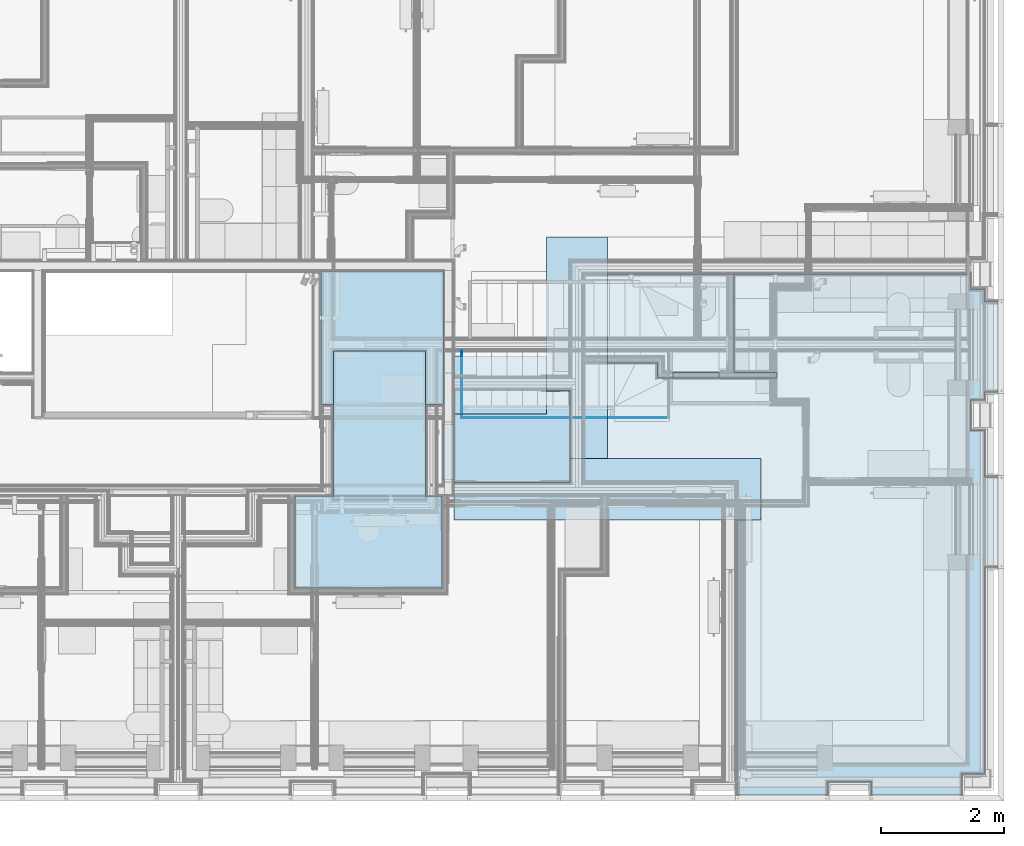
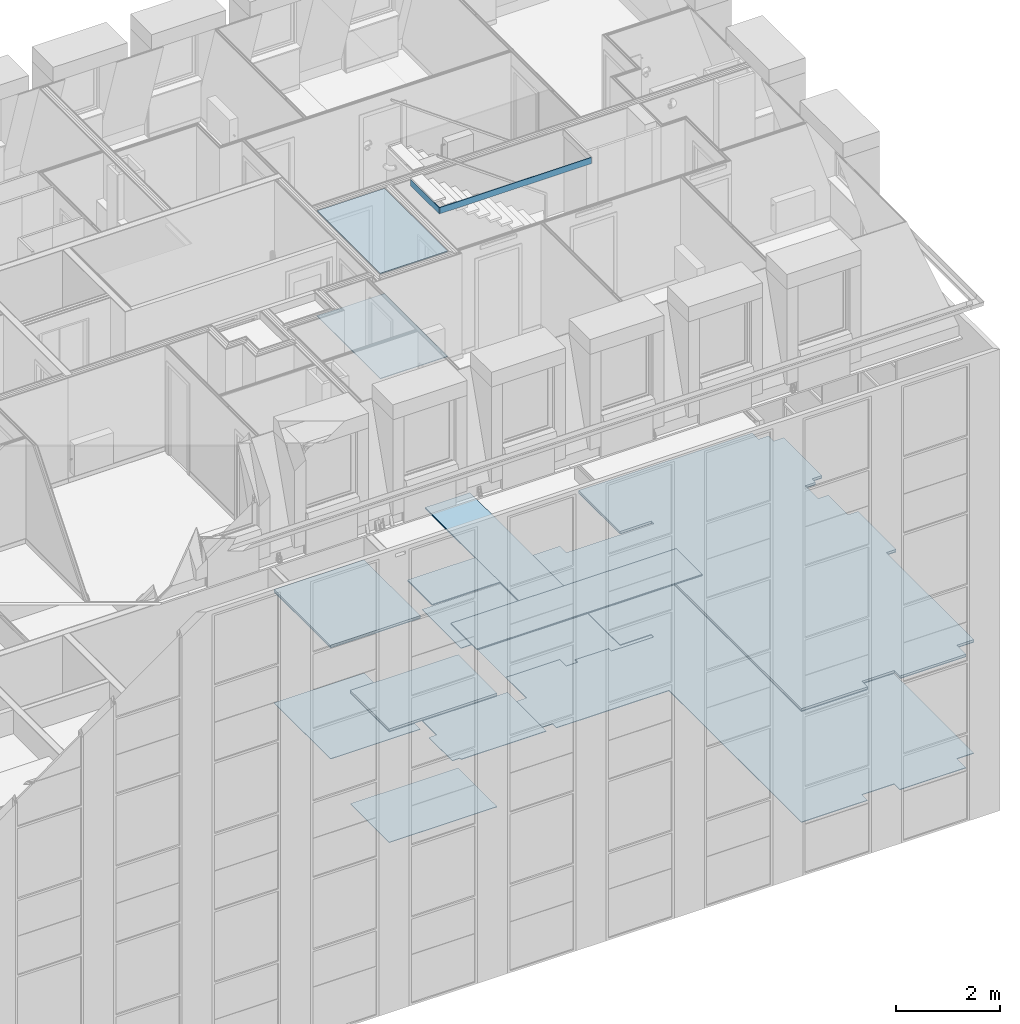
# One storey, part 77 of 169: 25 slabs.
"""IFC2X3 building model written with IfcOpenShell, lengths in metres."""

from ifc_helpers import new_model, entity, si_unit, converted_unit, derived_unit, money_unit, direction, frame, origin_with_axes, place, context, subcontext, project, spatial, faceted_brep, material, type_object, element, save


model = new_model("IFC2X3")

# Units and contexts
model_context = context("Model", 3, precision=1e-05, world=origin_with_axes(), true_north=direction((0.0, 1.0)))
body_context = subcontext(model_context, "Body", "Model", "MODEL_VIEW", scale=1.0)
ifc_project = project(units=[si_unit("LENGTHUNIT", "METRE"), si_unit("AREAUNIT", "SQUARE_METRE"), si_unit("VOLUMEUNIT", "CUBIC_METRE"), si_unit("ABSORBEDDOSEUNIT", "GRAY"), si_unit("AMOUNTOFSUBSTANCEUNIT", "MOLE"), si_unit("DOSEEQUIVALENTUNIT", "SIEVERT"), si_unit("ELECTRICCAPACITANCEUNIT", "FARAD"), si_unit("ELECTRICCHARGEUNIT", "COULOMB"), si_unit("ELECTRICCONDUCTANCEUNIT", "SIEMENS"), si_unit("ELECTRICCURRENTUNIT", "AMPERE"), si_unit("ELECTRICRESISTANCEUNIT", "OHM"), si_unit("ELECTRICVOLTAGEUNIT", "VOLT"), si_unit("ENERGYUNIT", "JOULE"), si_unit("FORCEUNIT", "NEWTON"), si_unit("FREQUENCYUNIT", "HERTZ"), si_unit("ILLUMINANCEUNIT", "LUX"), si_unit("INDUCTANCEUNIT", "HENRY"), si_unit("LUMINOUSFLUXUNIT", "LUMEN"), si_unit("LUMINOUSINTENSITYUNIT", "CANDELA"), si_unit("MAGNETICFLUXDENSITYUNIT", "TESLA"), si_unit("MAGNETICFLUXUNIT", "WEBER"), si_unit("MASSUNIT", "GRAM"), converted_unit("PLANEANGLEUNIT", "degree", entity("IfcReal", 0.0174532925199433), si_unit("PLANEANGLEUNIT", "RADIAN"), dimensions=[0, 0, 0, 0, 0, 0, 0]), si_unit("POWERUNIT", "WATT"), si_unit("PRESSUREUNIT", "PASCAL"), si_unit("RADIOACTIVITYUNIT", "BECQUEREL"), si_unit("SOLIDANGLEUNIT", "STERADIAN"), si_unit("THERMODYNAMICTEMPERATUREUNIT", "KELVIN"), si_unit("TIMEUNIT", "SECOND"), derived_unit("ACCELERATIONUNIT", [(si_unit("LENGTHUNIT", "METRE"), 1), (si_unit("TIMEUNIT", "SECOND"), -2)]), derived_unit("ANGULARVELOCITYUNIT", [(converted_unit("PLANEANGLEUNIT", "degree", entity("IfcReal", 0.0174532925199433), si_unit("PLANEANGLEUNIT", "RADIAN"), dimensions=[0, 0, 0, 0, 0, 0, 0]), 1), (si_unit("TIMEUNIT", "SECOND"), -1)]), derived_unit("CURVATUREUNIT", [(converted_unit("PLANEANGLEUNIT", "degree", entity("IfcReal", 0.0174532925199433), si_unit("PLANEANGLEUNIT", "RADIAN"), dimensions=[0, 0, 0, 0, 0, 0, 0]), 1), (si_unit("LENGTHUNIT", "METRE"), -1)]), derived_unit("DYNAMICVISCOSITYUNIT", [(si_unit("PRESSUREUNIT", "PASCAL"), 1), (si_unit("TIMEUNIT", "SECOND"), 1)]), derived_unit("HEATFLUXDENSITYUNIT", [(si_unit("POWERUNIT", "WATT"), 1), (si_unit("LENGTHUNIT", "METRE"), -2)]), derived_unit("HEATINGVALUEUNIT", [(si_unit("ENERGYUNIT", "JOULE"), 1), (si_unit("MASSUNIT", "GRAM"), -1)]), derived_unit("INTEGERCOUNTRATEUNIT", [(si_unit("TIMEUNIT", "SECOND"), -1)]), derived_unit("IONCONCENTRATIONUNIT", [(si_unit("MASSUNIT", "GRAM"), 1), (si_unit("VOLUMEUNIT", "CUBIC_METRE"), -1)]), derived_unit("ISOTHERMALMOISTURECAPACITYUNIT", [(si_unit("VOLUMEUNIT", "CUBIC_METRE"), 1), (si_unit("MASSUNIT", "GRAM"), -1)]), derived_unit("KINEMATICVISCOSITYUNIT", [(si_unit("AREAUNIT", "SQUARE_METRE"), 1), (si_unit("TIMEUNIT", "SECOND"), -1)]), derived_unit("LINEARFORCEUNIT", [(si_unit("FORCEUNIT", "NEWTON"), 1), (si_unit("LENGTHUNIT", "METRE"), -1)]), derived_unit("LINEARMOMENTUNIT", [(si_unit("FORCEUNIT", "NEWTON"), 1), (si_unit("LENGTHUNIT", "METRE"), -1)]), derived_unit("LINEARSTIFFNESSUNIT", [(si_unit("FORCEUNIT", "NEWTON"), 1), (si_unit("LENGTHUNIT", "METRE"), -1)]), derived_unit("LINEARVELOCITYUNIT", [(si_unit("LENGTHUNIT", "METRE"), 1), (si_unit("TIMEUNIT", "SECOND"), -1)]), derived_unit("LUMINOUSINTENSITYDISTRIBUTIONUNIT", [(si_unit("LUMINOUSINTENSITYUNIT", "CANDELA"), 1), (si_unit("LUMINOUSFLUXUNIT", "LUMEN"), -1)]), derived_unit("MASSDENSITYUNIT", [(si_unit("MASSUNIT", "GRAM"), 1), (si_unit("VOLUMEUNIT", "CUBIC_METRE"), -1)]), derived_unit("MASSFLOWRATEUNIT", [(si_unit("MASSUNIT", "GRAM"), 1), (si_unit("TIMEUNIT", "SECOND"), -1)]), derived_unit("MASSPERLENGTHUNIT", [(si_unit("MASSUNIT", "GRAM"), 1), (si_unit("LENGTHUNIT", "METRE"), -1)]), derived_unit("MODULUSOFELASTICITYUNIT", [(si_unit("FORCEUNIT", "NEWTON"), 1), (si_unit("AREAUNIT", "SQUARE_METRE"), -1)]), derived_unit("MODULUSOFLINEARSUBGRADEREACTIONUNIT", [(si_unit("FORCEUNIT", "NEWTON"), 1), (si_unit("LENGTHUNIT", "METRE"), -2)]), derived_unit("MODULUSOFROTATIONALSUBGRADEREACTIONUNIT", [(si_unit("FORCEUNIT", "NEWTON"), 1), (si_unit("LENGTHUNIT", "METRE"), 1)]), derived_unit("MODULUSOFSUBGRADEREACTIONUNIT", [(si_unit("FORCEUNIT", "NEWTON"), 1), (si_unit("VOLUMEUNIT", "CUBIC_METRE"), -1)]), derived_unit("MOISTUREDIFFUSIVITYUNIT", [(si_unit("VOLUMEUNIT", "CUBIC_METRE"), 1), (si_unit("TIMEUNIT", "SECOND"), -1)]), derived_unit("MOLECULARWEIGHTUNIT", [(si_unit("MASSUNIT", "GRAM"), 1), (si_unit("AMOUNTOFSUBSTANCEUNIT", "MOLE"), -1)]), derived_unit("PLANARFORCEUNIT", [(si_unit("FORCEUNIT", "NEWTON"), 1), (si_unit("LENGTHUNIT", "METRE"), -2)]), derived_unit("ROTATIONALFREQUENCYUNIT", [(si_unit("TIMEUNIT", "SECOND"), -1)]), derived_unit("ROTATIONALMASSUNIT", [(si_unit("MASSUNIT", "GRAM"), 1), (si_unit("LENGTHUNIT", "METRE"), 2)]), derived_unit("ROTATIONALSTIFFNESSUNIT", [(si_unit("FORCEUNIT", "NEWTON"), 1), (si_unit("LENGTHUNIT", "METRE"), 1), (converted_unit("PLANEANGLEUNIT", "degree", entity("IfcReal", 0.0174532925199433), si_unit("PLANEANGLEUNIT", "RADIAN"), dimensions=[0, 0, 0, 0, 0, 0, 0]), -1)]), derived_unit("SECTIONAREAINTEGRALUNIT", [(si_unit("LENGTHUNIT", "METRE"), 5)]), derived_unit("SECTIONMODULUSUNIT", [(si_unit("LENGTHUNIT", "METRE"), 3)]), derived_unit("SHEARMODULUSUNIT", [(si_unit("FORCEUNIT", "NEWTON"), 1), (si_unit("AREAUNIT", "SQUARE_METRE"), -1)]), derived_unit("SOUNDPOWERUNIT", [(si_unit("ENERGYUNIT", "JOULE"), 1), (si_unit("TIMEUNIT", "SECOND"), -1)]), derived_unit("SPECIFICHEATCAPACITYUNIT", [(si_unit("FORCEUNIT", "NEWTON"), 1), (si_unit("MASSUNIT", "GRAM"), -1), (si_unit("THERMODYNAMICTEMPERATUREUNIT", "KELVIN"), -1)]), derived_unit("TEMPERATUREGRADIENTUNIT", [(si_unit("THERMODYNAMICTEMPERATUREUNIT", "KELVIN"), 1), (si_unit("LENGTHUNIT", "METRE"), -1)]), derived_unit("THERMALADMITTANCEUNIT", [(si_unit("POWERUNIT", "WATT"), 1), (si_unit("AREAUNIT", "SQUARE_METRE"), -1), (si_unit("THERMODYNAMICTEMPERATUREUNIT", "KELVIN"), -1)]), derived_unit("THERMALCONDUCTANCEUNIT", [(si_unit("POWERUNIT", "WATT"), 1), (si_unit("LENGTHUNIT", "METRE"), -1), (si_unit("THERMODYNAMICTEMPERATUREUNIT", "KELVIN"), -1)]), derived_unit("THERMALEXPANSIONCOEFFICIENTUNIT", [(si_unit("THERMODYNAMICTEMPERATUREUNIT", "KELVIN"), -1)]), derived_unit("THERMALRESISTANCEUNIT", [(si_unit("AREAUNIT", "SQUARE_METRE"), 1), (si_unit("POWERUNIT", "WATT"), -1)]), derived_unit("THERMALTRANSMITTANCEUNIT", [(si_unit("POWERUNIT", "WATT"), 1), (si_unit("AREAUNIT", "SQUARE_METRE"), -1), (si_unit("THERMODYNAMICTEMPERATUREUNIT", "KELVIN"), -1)]), derived_unit("TORQUEUNIT", [(si_unit("FORCEUNIT", "NEWTON"), 1), (si_unit("LENGTHUNIT", "METRE"), 1)]), derived_unit("VAPORPERMEABILITYUNIT", [(si_unit("MASSUNIT", "GRAM"), 1), (si_unit("TIMEUNIT", "SECOND"), -1)]), derived_unit("VOLUMETRICFLOWRATEUNIT", [(si_unit("VOLUMEUNIT", "CUBIC_METRE"), 1), (si_unit("TIMEUNIT", "SECOND"), -1)]), derived_unit("WARPINGCONSTANTUNIT", [(si_unit("LENGTHUNIT", "METRE"), 6)]), derived_unit("WARPINGMOMENTUNIT", [(si_unit("FORCEUNIT", "NEWTON"), 1), (si_unit("LENGTHUNIT", "METRE"), 2)]), money_unit("GBP")], contexts=[model_context])

# Site, building, storey
site_placement = place(None, origin_with_axes())
site = spatial("IfcSite", under=ifc_project, at=site_placement, Name="Site", CompositionType="ELEMENT")
building_placement = place(site_placement, origin_with_axes())
building = spatial("IfcBuilding", under=site, at=building_placement, Name="Building01", CompositionType="ELEMENT")
storey_placement = place(building_placement, frame((0.0, 0.0, 5.15), z_axis=(0.0, 0.0, 1.0), x_axis=(1.0, 0.0, 0.0)))
storey = spatial("IfcBuildingStorey", under=building, at=storey_placement, Name="1F", CompositionType="ELEMENT", Elevation=5.15)

# Slabs
ifc_material_1 = material(Name="A_BSUK_CeilingSoffitFinishes_Suspended")
slab_type_1 = type_object("IfcSlabType", Name="A-FloorsSlabs A_BSUK_Slabs", PredefinedType="FLOOR")
placement = place(storey_placement, frame((0.0, 0.0, -5.15), z_axis=(0.0, 0.0, 1.0), x_axis=(1.0, 0.0, 0.0)))
element("IfcSlab", 1, at=placement, inside=storey, type_object=slab_type_1, material=ifc_material_1, Name="A-FloorsSlabs A_BSUK_Slabs", ObjectType="CompoundSlabLeaf", context=body_context, shape_type="Brep", body=[
    faceted_brep([(18.0, 6.705, 7.765), (18.0, 6.705, 7.78), (19.897661, 6.705, 7.78), (19.897661, 6.705, 7.765), (18.0, 5.205, 7.765), (18.0, 5.205, 7.78), (19.897661, 5.205, 7.765), (19.897661, 5.205, 7.78)], [[[0, 1, 2, 3]], [[4, 5, 1, 0]], [[6, 7, 5, 4]], [[3, 2, 7, 6]], [[1, 5, 7, 2]], [[3, 6, 4, 0]]]),
])
ifc_material_2 = material(Name="A_BSUK_ExpandedPolystyreneBoards")
element("IfcSlab", 2, at=placement, inside=storey, type_object=slab_type_1, material=ifc_material_2, Name="A-FloorsSlabs A_BSUK_Slabs", ObjectType="CompoundSlabLeaf", context=body_context, shape_type="Brep", body=[
    faceted_brep([(18.0, 6.69, 5.15), (18.0, 6.69, 5.153), (19.897661, 6.69, 5.153), (19.897661, 6.69, 5.15), (18.0, 5.205, 5.15), (18.0, 5.205, 5.153), (19.897661, 5.205, 5.15), (19.897661, 5.205, 5.153)], [[[0, 1, 2, 3]], [[4, 5, 1, 0]], [[6, 7, 5, 4]], [[3, 2, 7, 6]], [[1, 5, 7, 2]], [[3, 6, 4, 0]]]),
])
element("IfcSlab", 3, at=placement, inside=storey, type_object=slab_type_1, material=ifc_material_2, Name="A-FloorsSlabs A_BSUK_Slabs", ObjectType="CompoundSlabLeaf", context=body_context, shape_type="Brep", body=[
    faceted_brep([(20.122661, 6.357147, 5.15), (20.122661, 6.357147, 5.153), (20.122661, 8.595, 5.153), (20.122661, 8.595, 5.15), (19.897661, 6.357147, 5.15), (19.897661, 6.357147, 5.153), (19.897661, 5.357147, 5.15), (19.897661, 5.357147, 5.153), (20.122661, 5.357147, 5.15), (20.122661, 5.357147, 5.153), (20.122661, 5.205, 5.15), (20.122661, 5.205, 5.153), (22.625, 5.205, 5.15), (22.625, 5.205, 5.153), (22.625, 0.1, 5.15), (22.625, 0.1, 5.153), (24.095, 0.1, 5.15), (24.095, 0.1, 5.153), (24.095, 0.318, 5.15), (24.095, 0.318, 5.153), (24.815, 0.318, 5.15), (24.815, 0.318, 5.153), (24.815, 0.1, 5.15), (24.815, 0.1, 5.153), (26.285, 0.1, 5.15), (26.285, 0.1, 5.153), (26.285, 0.448, 5.15), (26.285, 0.448, 5.153), (26.662, 0.448, 5.15), (26.662, 0.448, 5.153), (26.662, 3.82218, 5.15), (26.662, 3.82218, 5.153), (26.88, 3.82218, 5.15), (26.88, 3.82218, 5.153), (26.88, 5.29218, 5.15), (26.88, 5.29218, 5.153), (26.662, 5.29218, 5.15), (26.662, 5.29218, 5.153), (26.662, 6.052, 5.15), (26.662, 6.052, 5.153), (26.432, 6.052, 5.15), (26.432, 6.052, 5.153), (26.432, 6.548, 5.15), (26.432, 6.548, 5.153), (26.662, 6.548, 5.15), (26.662, 6.548, 5.153), (26.662, 6.682326, 5.15), (26.662, 6.682326, 5.153), (26.88, 6.682326, 5.15), (26.88, 6.682326, 5.153), (26.88, 8.152326, 5.15), (26.88, 8.152326, 5.153), (26.662, 8.152326, 5.15), (26.662, 8.152326, 5.153), (26.662, 8.352, 5.15), (26.662, 8.352, 5.153), (26.432, 8.352, 5.15), (26.432, 8.352, 5.153), (26.432, 8.595, 5.15), (26.432, 8.595, 5.153)], [[[0, 1, 2, 3]], [[4, 5, 1, 0]], [[6, 7, 5, 4]], [[8, 9, 7, 6]], [[10, 11, 9, 8]], [[12, 13, 11, 10]], [[14, 15, 13, 12]], [[16, 17, 15, 14]], [[18, 19, 17, 16]], [[20, 21, 19, 18]], [[22, 23, 21, 20]], [[24, 25, 23, 22]], [[26, 27, 25, 24]], [[28, 29, 27, 26]], [[30, 31, 29, 28]], [[32, 33, 31, 30]], [[34, 35, 33, 32]], [[36, 37, 35, 34]], [[38, 39, 37, 36]], [[40, 41, 39, 38]], [[42, 43, 41, 40]], [[44, 45, 43, 42]], [[46, 47, 45, 44]], [[48, 49, 47, 46]], [[50, 51, 49, 48]], [[52, 53, 51, 50]], [[54, 55, 53, 52]], [[56, 57, 55, 54]], [[58, 59, 57, 56]], [[3, 2, 59, 58]], [[1, 5, 7, 9, 11, 13, 15, 17, 19, 21, 23, 25, 27, 29, 31, 33, 35, 37, 39, 41, 43, 45, 47, 49, 51, 53, 55, 57, 59, 2]], [[3, 58, 56, 54, 52, 50, 48, 46, 44, 42, 40, 38, 36, 34, 32, 30, 28, 26, 24, 22, 20, 18, 16, 14, 12, 10, 8, 6, 4, 0]]]),
])
ifc_material_3 = material(Name="A_BSUK_Ceramic_FloorTiles")
element("IfcSlab", 4, at=placement, inside=storey, type_object=slab_type_1, material=ifc_material_3, Name="A-FloorsSlabs A_BSUK_Slabs", ObjectType="CompoundSlabLeaf", context=body_context, shape_type="Brep", body=[
    faceted_brep([(15.83, 6.475, 5.153), (15.83, 6.475, 5.165), (15.83, 8.65, 5.165), (15.83, 8.65, 5.153), (17.83, 6.475, 5.153), (17.83, 6.475, 5.165), (17.83, 8.65, 5.153), (17.83, 8.65, 5.165)], [[[0, 1, 2, 3]], [[4, 5, 1, 0]], [[6, 7, 5, 4]], [[3, 2, 7, 6]], [[1, 5, 7, 2]], [[3, 6, 4, 0]]]),
])
ifc_material_4 = material(Name="A_BSUK_Parquet_Floor")
element("IfcSlab", 5, at=placement, inside=storey, type_object=slab_type_1, material=ifc_material_4, Name="A-FloorsSlabs A_BSUK_Slabs", ObjectType="CompoundSlabLeaf", context=body_context, shape_type="Brep", body=[
    faceted_brep([(19.897661, 5.357147, 5.153), (19.897661, 5.357147, 5.165), (19.897661, 6.357147, 5.165), (19.897661, 6.357147, 5.153), (20.122661, 5.357147, 5.153), (20.122661, 5.357147, 5.165), (20.122661, 5.205, 5.153), (20.122661, 5.205, 5.165), (22.625, 5.205, 5.153), (22.625, 5.205, 5.165), (22.625, 0.1, 5.153), (22.625, 0.1, 5.165), (24.095, 0.1, 5.153), (24.095, 0.1, 5.165), (24.095, 0.318, 5.153), (24.095, 0.318, 5.165), (24.815, 0.318, 5.153), (24.815, 0.318, 5.165), (24.815, 0.1, 5.153), (24.815, 0.1, 5.165), (26.285, 0.1, 5.153), (26.285, 0.1, 5.165), (26.285, 0.448, 5.153), (26.285, 0.448, 5.165), (26.662, 0.448, 5.153), (26.662, 0.448, 5.165), (26.662, 3.82218, 5.153), (26.662, 3.82218, 5.165), (26.662, 5.29218, 5.153), (26.662, 5.29218, 5.165), (26.662, 6.052, 5.153), (26.662, 6.052, 5.165), (26.432, 6.052, 5.153), (26.432, 6.052, 5.165), (26.432, 6.548, 5.153), (26.432, 6.548, 5.165), (26.662, 6.548, 5.153), (26.662, 6.548, 5.165), (26.662, 6.682326, 5.153), (26.662, 6.682326, 5.165), (26.662, 8.152326, 5.153), (26.662, 8.152326, 5.165), (26.662, 8.352, 5.153), (26.662, 8.352, 5.165), (26.432, 8.352, 5.153), (26.432, 8.352, 5.165), (26.432, 8.595, 5.153), (26.432, 8.595, 5.165), (22.571661, 8.595, 5.153), (22.571661, 8.595, 5.165), (22.571661, 7.0, 5.153), (22.571661, 7.0, 5.165), (23.271529, 7.0, 5.153), (23.271529, 7.0, 5.165), (23.271529, 6.905, 5.153), (23.271529, 6.905, 5.165), (22.326661, 6.905, 5.153), (22.326661, 6.905, 5.165), (22.326661, 7.0, 5.153), (22.326661, 7.0, 5.165), (21.576661, 7.0, 5.153), (21.576661, 7.0, 5.165), (21.576661, 6.905, 5.153), (21.576661, 6.905, 5.165), (21.322661, 6.905, 5.153), (21.322661, 6.905, 5.165), (21.322661, 7.155, 5.153), (21.322661, 7.155, 5.165), (20.122661, 7.155, 5.153), (20.122661, 7.155, 5.165), (20.122661, 6.905, 5.153), (20.122661, 6.905, 5.165), (20.122661, 6.357147, 5.153), (20.122661, 6.357147, 5.165)], [[[0, 1, 2, 3]], [[4, 5, 1, 0]], [[6, 7, 5, 4]], [[8, 9, 7, 6]], [[10, 11, 9, 8]], [[12, 13, 11, 10]], [[14, 15, 13, 12]], [[16, 17, 15, 14]], [[18, 19, 17, 16]], [[20, 21, 19, 18]], [[22, 23, 21, 20]], [[24, 25, 23, 22]], [[26, 27, 25, 24]], [[28, 29, 27, 26]], [[30, 31, 29, 28]], [[32, 33, 31, 30]], [[34, 35, 33, 32]], [[36, 37, 35, 34]], [[38, 39, 37, 36]], [[40, 41, 39, 38]], [[42, 43, 41, 40]], [[44, 45, 43, 42]], [[46, 47, 45, 44]], [[48, 49, 47, 46]], [[50, 51, 49, 48]], [[52, 53, 51, 50]], [[54, 55, 53, 52]], [[56, 57, 55, 54]], [[58, 59, 57, 56]], [[60, 61, 59, 58]], [[62, 63, 61, 60]], [[64, 65, 63, 62]], [[66, 67, 65, 64]], [[68, 69, 67, 66]], [[70, 71, 69, 68]], [[72, 73, 71, 70]], [[3, 2, 73, 72]], [[1, 5, 7, 9, 11, 13, 15, 17, 19, 21, 23, 25, 27, 29, 31, 33, 35, 37, 39, 41, 43, 45, 47, 49, 51, 53, 55, 57, 59, 61, 63, 65, 67, 69, 71, 73, 2]], [[3, 72, 70, 68, 66, 64, 62, 60, 58, 56, 54, 52, 50, 48, 46, 44, 42, 40, 38, 36, 34, 32, 30, 28, 26, 24, 22, 20, 18, 16, 14, 12, 10, 8, 6, 4, 0]]]),
])
element("IfcSlab", 6, at=placement, inside=storey, type_object=slab_type_1, material=ifc_material_3, Name="A-FloorsSlabs A_BSUK_Slabs", ObjectType="CompoundSlabLeaf", context=body_context, shape_type="Brep", body=[
    faceted_brep([(15.4075, 4.98, 5.153), (15.4075, 4.98, 5.165), (17.8075, 4.98, 5.165), (17.8075, 4.98, 5.153), (15.4075, 4.259428, 5.153), (15.4075, 4.259428, 5.165), (15.4075, 3.48, 5.153), (15.4075, 3.48, 5.165), (17.8075, 3.48, 5.153), (17.8075, 3.48, 5.165)], [[[0, 1, 2, 3]], [[4, 5, 1, 0]], [[6, 7, 5, 4]], [[8, 9, 7, 6]], [[3, 2, 9, 8]], [[1, 5, 7, 9, 2]], [[3, 8, 6, 4, 0]]]),
])
ifc_material_5 = material(Name="A_BSUK_Carpet-Pile")
element("IfcSlab", 7, at=placement, inside=storey, type_object=slab_type_1, material=ifc_material_5, Name="A-FloorsSlabs A_BSUK_Slabs", ObjectType="CompoundSlabLeaf", context=body_context, shape_type="Brep", body=[
    faceted_brep([(18.0, 6.705, 5.153), (18.0, 6.705, 5.165), (19.897661, 6.705, 5.165), (19.897661, 6.705, 5.153), (18.0, 6.15, 5.153), (18.0, 6.15, 5.165), (17.83, 6.15, 5.153), (17.83, 6.15, 5.165), (17.83, 5.25, 5.153), (17.83, 5.25, 5.165), (18.0, 5.25, 5.153), (18.0, 5.25, 5.165), (18.0, 5.205, 5.153), (18.0, 5.205, 5.165), (19.897661, 5.205, 5.153), (19.897661, 5.205, 5.165)], [[[0, 1, 2, 3]], [[4, 5, 1, 0]], [[6, 7, 5, 4]], [[8, 9, 7, 6]], [[10, 11, 9, 8]], [[12, 13, 11, 10]], [[14, 15, 13, 12]], [[3, 2, 15, 14]], [[1, 5, 7, 9, 11, 13, 15, 2]], [[3, 14, 12, 10, 8, 6, 4, 0]]]),
])
element("IfcSlab", 8, at=placement, inside=storey, type_object=slab_type_1, material=ifc_material_1, Name="A-FloorsSlabs A_BSUK_Slabs", ObjectType="CompoundSlabLeaf", context=body_context, shape_type="Brep", body=[
    faceted_brep([(15.83, 6.475, 7.765), (15.83, 6.475, 7.78), (15.83, 8.65, 7.78), (15.83, 8.65, 7.765), (17.83, 6.475, 7.765), (17.83, 6.475, 7.78), (17.83, 8.65, 7.765), (17.83, 8.65, 7.78)], [[[0, 1, 2, 3]], [[4, 5, 1, 0]], [[6, 7, 5, 4]], [[3, 2, 7, 6]], [[1, 5, 7, 2]], [[3, 6, 4, 0]]]),
])
element("IfcSlab", 9, at=placement, inside=storey, type_object=slab_type_1, material=ifc_material_1, Name="A-FloorsSlabs A_BSUK_Slabs", ObjectType="CompoundSlabLeaf", context=body_context, shape_type="Brep", body=[
    faceted_brep([(20.122661, 5.457147, 7.765), (20.122661, 5.457147, 7.78), (20.122661, 6.457147, 7.78), (20.122661, 6.457147, 7.765), (20.122661, 5.205, 7.765), (20.122661, 5.205, 7.78), (22.625, 5.205, 7.765), (22.625, 5.205, 7.78), (22.625, 0.1, 7.765), (22.625, 0.1, 7.78), (24.095, 0.1, 7.765), (24.095, 0.1, 7.78), (24.095, 0.318, 7.765), (24.095, 0.318, 7.78), (24.815, 0.318, 7.765), (24.815, 0.318, 7.78), (24.815, 0.1, 7.765), (24.815, 0.1, 7.78), (26.285, 0.1, 7.765), (26.285, 0.1, 7.78), (26.285, 0.448, 7.765), (26.285, 0.448, 7.78), (26.662, 0.448, 7.765), (26.662, 0.448, 7.78), (26.662, 3.82218, 7.765), (26.662, 3.82218, 7.78), (26.88, 3.82218, 7.765), (26.88, 3.82218, 7.78), (26.88, 5.29218, 7.765), (26.88, 5.29218, 7.78), (26.662, 5.29218, 7.765), (26.662, 5.29218, 7.78), (26.662, 6.052, 7.765), (26.662, 6.052, 7.78), (26.432, 6.052, 7.765), (26.432, 6.052, 7.78), (26.432, 6.548, 7.765), (26.432, 6.548, 7.78), (26.662, 6.548, 7.765), (26.662, 6.548, 7.78), (26.662, 6.682326, 7.765), (26.662, 6.682326, 7.78), (26.88, 6.682326, 7.765), (26.88, 6.682326, 7.78), (26.88, 8.152326, 7.765), (26.88, 8.152326, 7.78), (26.662, 8.152326, 7.765), (26.662, 8.152326, 7.78), (26.662, 8.352, 7.765), (26.662, 8.352, 7.78), (26.432, 8.352, 7.765), (26.432, 8.352, 7.78), (26.432, 8.595, 7.765), (26.432, 8.595, 7.78), (22.571661, 8.595, 7.765), (22.571661, 8.595, 7.78), (22.571661, 7.0, 7.765), (22.571661, 7.0, 7.78), (23.271529, 7.0, 7.765), (23.271529, 7.0, 7.78), (23.271529, 6.955, 7.765), (23.271529, 6.955, 7.78), (23.271529, 6.905, 7.765), (23.271529, 6.905, 7.78), (21.322661, 6.905, 7.765), (21.322661, 6.905, 7.78), (21.322661, 7.155, 7.765), (21.322661, 7.155, 7.78), (20.122661, 7.155, 7.765), (20.122661, 7.155, 7.78)], [[[0, 1, 2, 3]], [[4, 5, 1, 0]], [[6, 7, 5, 4]], [[8, 9, 7, 6]], [[10, 11, 9, 8]], [[12, 13, 11, 10]], [[14, 15, 13, 12]], [[16, 17, 15, 14]], [[18, 19, 17, 16]], [[20, 21, 19, 18]], [[22, 23, 21, 20]], [[24, 25, 23, 22]], [[26, 27, 25, 24]], [[28, 29, 27, 26]], [[30, 31, 29, 28]], [[32, 33, 31, 30]], [[34, 35, 33, 32]], [[36, 37, 35, 34]], [[38, 39, 37, 36]], [[40, 41, 39, 38]], [[42, 43, 41, 40]], [[44, 45, 43, 42]], [[46, 47, 45, 44]], [[48, 49, 47, 46]], [[50, 51, 49, 48]], [[52, 53, 51, 50]], [[54, 55, 53, 52]], [[56, 57, 55, 54]], [[58, 59, 57, 56]], [[60, 61, 59, 58]], [[62, 63, 61, 60]], [[64, 65, 63, 62]], [[66, 67, 65, 64]], [[68, 69, 67, 66]], [[3, 2, 69, 68]], [[1, 5, 7, 9, 11, 13, 15, 17, 19, 21, 23, 25, 27, 29, 31, 33, 35, 37, 39, 41, 43, 45, 47, 49, 51, 53, 55, 57, 59, 61, 63, 65, 67, 69, 2]], [[3, 68, 66, 64, 62, 60, 58, 56, 54, 52, 50, 48, 46, 44, 42, 40, 38, 36, 34, 32, 30, 28, 26, 24, 22, 20, 18, 16, 14, 12, 10, 8, 6, 4, 0]]]),
])
element("IfcSlab", 10, at=placement, inside=storey, type_object=slab_type_1, material=ifc_material_1, Name="A-FloorsSlabs A_BSUK_Slabs", ObjectType="CompoundSlabLeaf", context=body_context, shape_type="Brep", body=[
    faceted_brep([(15.4075, 4.98, 7.765), (15.4075, 4.98, 7.78), (17.8075, 4.98, 7.78), (17.8075, 4.98, 7.765), (15.4075, 4.259428, 7.765), (15.4075, 4.259428, 7.78), (15.4075, 3.48, 7.765), (15.4075, 3.48, 7.78), (17.8075, 3.48, 7.765), (17.8075, 3.48, 7.78)], [[[0, 1, 2, 3]], [[4, 5, 1, 0]], [[6, 7, 5, 4]], [[8, 9, 7, 6]], [[3, 2, 9, 8]], [[1, 5, 7, 9, 2]], [[3, 8, 6, 4, 0]]]),
])
element("IfcSlab", 11, at=placement, inside=storey, type_object=slab_type_1, material=ifc_material_1, Name="A-FloorsSlabs A_BSUK_Slabs", ObjectType="CompoundSlabLeaf", context=body_context, shape_type="Brep", body=[
    faceted_brep([(19.510161, 5.593, 8.115), (19.510161, 5.593, 8.13), (19.510161, 9.2075, 8.13), (19.510161, 9.2075, 8.115), (20.510161, 5.593, 8.115), (20.510161, 5.593, 8.13), (20.510161, 9.2075, 8.115), (20.510161, 9.2075, 8.13)], [[[0, 1, 2, 3]], [[4, 5, 1, 0]], [[6, 7, 5, 4]], [[3, 2, 7, 6]], [[1, 5, 7, 2]], [[3, 6, 4, 0]]]),
])
element("IfcSlab", 12, at=placement, inside=storey, type_object=slab_type_1, material=ifc_material_1, Name="A-FloorsSlabs A_BSUK_Slabs", ObjectType="CompoundSlabLeaf", context=body_context, shape_type="Brep", body=[
    faceted_brep([(18.0, 4.593, 8.115), (18.0, 4.593, 8.13), (18.0, 5.593, 8.13), (18.0, 5.593, 8.115), (23.0125, 4.593, 8.115), (23.0125, 4.593, 8.13), (23.0125, 5.593, 8.115), (23.0125, 5.593, 8.13)], [[[0, 1, 2, 3]], [[4, 5, 1, 0]], [[6, 7, 5, 4]], [[3, 2, 7, 6]], [[1, 5, 7, 2]], [[3, 6, 4, 0]]]),
])
element("IfcSlab", 13, at=placement, inside=storey, type_object=slab_type_1, material=ifc_material_1, Name="A-FloorsSlabs A_BSUK_Slabs", ObjectType="CompoundSlabLeaf", context=body_context, shape_type="Brep", body=[
    faceted_brep([(18.0, 6.3175, 8.115), (18.0, 6.3175, 8.13), (18.0, 7.27, 8.13), (18.0, 7.27, 8.115), (19.510161, 6.3175, 8.115), (19.510161, 6.3175, 8.13), (19.510161, 7.27, 8.115), (19.510161, 7.27, 8.13)], [[[0, 1, 2, 3]], [[4, 5, 1, 0]], [[6, 7, 5, 4]], [[3, 2, 7, 6]], [[1, 5, 7, 2]], [[3, 6, 4, 0]]]),
])
element("IfcSlab", 14, at=placement, inside=storey, type_object=slab_type_1, material=ifc_material_1, Name="A-FloorsSlabs A_BSUK_Slabs", ObjectType="CompoundSlabLeaf", context=body_context, shape_type="Brep", body=[
    faceted_brep([(19.510161, 5.593, 8.1), (19.510161, 5.593, 8.115), (19.510161, 9.2075, 8.115), (19.510161, 9.2075, 8.1), (20.510161, 5.593, 8.1), (20.510161, 5.593, 8.115), (20.510161, 9.2075, 8.1), (20.510161, 9.2075, 8.115)], [[[0, 1, 2, 3]], [[4, 5, 1, 0]], [[6, 7, 5, 4]], [[3, 2, 7, 6]], [[1, 5, 7, 2]], [[3, 6, 4, 0]]]),
])
element("IfcSlab", 15, at=placement, inside=storey, type_object=slab_type_1, material=ifc_material_1, Name="A-FloorsSlabs A_BSUK_Slabs", ObjectType="CompoundSlabLeaf", context=body_context, shape_type="Brep", body=[
    faceted_brep([(18.0, 4.593, 8.1), (18.0, 4.593, 8.115), (18.0, 5.593, 8.115), (18.0, 5.593, 8.1), (23.0125, 4.593, 8.1), (23.0125, 4.593, 8.115), (23.0125, 5.593, 8.1), (23.0125, 5.593, 8.115)], [[[0, 1, 2, 3]], [[4, 5, 1, 0]], [[6, 7, 5, 4]], [[3, 2, 7, 6]], [[1, 5, 7, 2]], [[3, 6, 4, 0]]]),
])
element("IfcSlab", 16, at=placement, inside=storey, type_object=slab_type_1, material=ifc_material_1, Name="A-FloorsSlabs A_BSUK_Slabs", ObjectType="CompoundSlabLeaf", context=body_context, shape_type="Brep", body=[
    faceted_brep([(18.0, 6.3175, 8.1), (18.0, 6.3175, 8.115), (18.0, 7.27, 8.115), (18.0, 7.27, 8.1), (19.510161, 6.3175, 8.1), (19.510161, 6.3175, 8.115), (19.510161, 7.27, 8.1), (19.510161, 7.27, 8.115)], [[[0, 1, 2, 3]], [[4, 5, 1, 0]], [[6, 7, 5, 4]], [[3, 2, 7, 6]], [[1, 5, 7, 2]], [[3, 6, 4, 0]]]),
])
element("IfcSlab", 17, at=placement, inside=storey, type_object=slab_type_1, material=ifc_material_1, Name="A-FloorsSlabs A_BSUK_Slabs", ObjectType="CompoundSlabLeaf", context=body_context, shape_type="Brep", body=[
    faceted_brep([(16.03844, 7.349915, 17.423), (16.03844, 7.349915, 17.438), (17.53844, 7.349915, 17.438), (17.53844, 7.349915, 17.423), (16.03844, 4.917, 17.423), (16.03844, 4.917, 17.438), (17.53844, 4.917, 17.423), (17.53844, 4.917, 17.438)], [[[0, 1, 2, 3]], [[4, 5, 1, 0]], [[6, 7, 5, 4]], [[3, 2, 7, 6]], [[1, 5, 7, 2]], [[3, 6, 4, 0]]]),
])
element("IfcSlab", 18, at=placement, inside=storey, type_object=slab_type_1, material=ifc_material_2, Name="A-FloorsSlabs A_BSUK_Slabs", ObjectType="CompoundSlabLeaf", context=body_context, shape_type="Brep", body=[
    faceted_brep([(16.03844, 7.349915, 14.965), (16.03844, 7.349915, 14.968), (17.53844, 7.349915, 14.968), (17.53844, 7.349915, 14.965), (16.03844, 4.917, 14.965), (16.03844, 4.917, 14.968), (17.53844, 4.917, 14.965), (17.53844, 4.917, 14.968)], [[[0, 1, 2, 3]], [[4, 5, 1, 0]], [[6, 7, 5, 4]], [[3, 2, 7, 6]], [[1, 5, 7, 2]], [[3, 6, 4, 0]]]),
])
element("IfcSlab", 19, at=placement, inside=storey, type_object=slab_type_1, material=ifc_material_1, Name="A-FloorsSlabs A_BSUK_Slabs", ObjectType="CompoundSlabLeaf", context=body_context, shape_type="Brep", body=[
    faceted_brep([(16.03844, 7.349915, 17.438), (16.03844, 7.349915, 17.453), (17.53844, 7.349915, 17.453), (17.53844, 7.349915, 17.438), (16.03844, 4.917, 17.438), (16.03844, 4.917, 17.453), (17.53844, 4.917, 17.438), (17.53844, 4.917, 17.453)], [[[0, 1, 2, 3]], [[4, 5, 1, 0]], [[6, 7, 5, 4]], [[3, 2, 7, 6]], [[1, 5, 7, 2]], [[3, 6, 4, 0]]]),
])
element("IfcSlab", 20, at=placement, inside=storey, type_object=slab_type_1, material=ifc_material_1, Name="A-FloorsSlabs A_BSUK_Slabs", ObjectType="CompoundSlabLeaf", context=body_context, shape_type="Brep", body=[
    faceted_brep([(21.50344, 6.252627, 17.308), (21.50344, 6.267627, 17.308), (21.50344, 6.267627, 17.453), (21.50344, 6.252627, 17.453), (18.13344, 6.252627, 17.308), (18.13344, 6.267627, 17.308), (18.13344, 6.252627, 17.453), (18.13344, 6.267627, 17.453)], [[[0, 1, 2, 3]], [[4, 5, 1, 0]], [[6, 7, 5, 4]], [[3, 2, 7, 6]], [[1, 5, 7, 2]], [[3, 6, 4, 0]]]),
])
element("IfcSlab", 21, at=placement, inside=storey, type_object=slab_type_1, material=ifc_material_1, Name="A-FloorsSlabs A_BSUK_Slabs", ObjectType="CompoundSlabLeaf", context=body_context, shape_type="Brep", body=[
    faceted_brep([(18.13344, 7.349939, 17.308), (18.11844, 7.349939, 17.308), (18.11844, 7.349939, 17.453), (18.13344, 7.349939, 17.453), (18.13344, 6.252627, 17.308), (18.11844, 6.252627, 17.308), (18.13344, 6.252627, 17.453), (18.11844, 6.252627, 17.453)], [[[0, 1, 2, 3]], [[4, 5, 1, 0]], [[6, 7, 5, 4]], [[3, 2, 7, 6]], [[1, 5, 7, 2]], [[3, 6, 4, 0]]]),
])
slab_type_2 = type_object("IfcSlabType", Name="A-FloorsSlabs A_BSUK_ExpandedPolystyreneBoards", PredefinedType="FLOOR")
element("IfcSlab", 22, at=placement, inside=storey, type_object=slab_type_2, material=ifc_material_2, Name="A-FloorsSlabs A_BSUK_ExpandedPolystyreneBoards", ObjectType="CompoundSlabLeaf", context=body_context, shape_type="Brep", body=[
    faceted_brep([(15.83, 6.475, 7.78), (15.83, 6.475, 7.83), (15.83, 8.65, 7.83), (15.83, 8.65, 7.78), (17.83, 6.475, 7.78), (17.83, 6.475, 7.83), (17.83, 8.65, 7.78), (17.83, 8.65, 7.83)], [[[0, 1, 2, 3]], [[4, 5, 1, 0]], [[6, 7, 5, 4]], [[3, 2, 7, 6]], [[1, 5, 7, 2]], [[3, 6, 4, 0]]]),
])
element("IfcSlab", 23, at=placement, inside=storey, type_object=slab_type_2, material=ifc_material_2, Name="A-FloorsSlabs A_BSUK_ExpandedPolystyreneBoards", ObjectType="CompoundSlabLeaf", context=body_context, shape_type="Brep", body=[
    faceted_brep([(20.122661, 5.457147, 7.78), (20.122661, 5.457147, 7.83), (20.122661, 6.457147, 7.83), (20.122661, 6.457147, 7.78), (20.122661, 5.205, 7.78), (20.122661, 5.205, 7.83), (22.625, 5.205, 7.78), (22.625, 5.205, 7.83), (22.625, 0.1, 7.78), (22.625, 0.1, 7.83), (24.095, 0.1, 7.78), (24.095, 0.1, 7.83), (24.095, 0.318, 7.78), (24.095, 0.318, 7.83), (24.815, 0.318, 7.78), (24.815, 0.318, 7.83), (24.815, 0.1, 7.78), (24.815, 0.1, 7.83), (26.285, 0.1, 7.78), (26.285, 0.1, 7.83), (26.285, 0.448, 7.78), (26.285, 0.448, 7.83), (26.662, 0.448, 7.78), (26.662, 0.448, 7.83), (26.662, 3.82218, 7.78), (26.662, 3.82218, 7.83), (26.88, 3.82218, 7.78), (26.88, 3.82218, 7.83), (26.88, 5.29218, 7.78), (26.88, 5.29218, 7.83), (26.662, 5.29218, 7.78), (26.662, 5.29218, 7.83), (26.662, 6.052, 7.78), (26.662, 6.052, 7.83), (26.432, 6.052, 7.78), (26.432, 6.052, 7.83), (26.432, 6.548, 7.78), (26.432, 6.548, 7.83), (26.662, 6.548, 7.78), (26.662, 6.548, 7.83), (26.662, 6.682326, 7.78), (26.662, 6.682326, 7.83), (26.88, 6.682326, 7.78), (26.88, 6.682326, 7.83), (26.88, 8.152326, 7.78), (26.88, 8.152326, 7.83), (26.662, 8.152326, 7.78), (26.662, 8.152326, 7.83), (26.662, 8.352, 7.78), (26.662, 8.352, 7.83), (26.432, 8.352, 7.78), (26.432, 8.352, 7.83), (26.432, 8.595, 7.78), (26.432, 8.595, 7.83), (22.571661, 8.595, 7.78), (22.571661, 8.595, 7.83), (22.571661, 7.0, 7.78), (22.571661, 7.0, 7.83), (23.271529, 7.0, 7.78), (23.271529, 7.0, 7.83), (23.271529, 6.955, 7.78), (23.271529, 6.955, 7.83), (23.271529, 6.905, 7.78), (23.271529, 6.905, 7.83), (21.322661, 6.905, 7.78), (21.322661, 6.905, 7.83), (21.322661, 7.155, 7.78), (21.322661, 7.155, 7.83), (20.122661, 7.155, 7.78), (20.122661, 7.155, 7.83)], [[[0, 1, 2, 3]], [[4, 5, 1, 0]], [[6, 7, 5, 4]], [[8, 9, 7, 6]], [[10, 11, 9, 8]], [[12, 13, 11, 10]], [[14, 15, 13, 12]], [[16, 17, 15, 14]], [[18, 19, 17, 16]], [[20, 21, 19, 18]], [[22, 23, 21, 20]], [[24, 25, 23, 22]], [[26, 27, 25, 24]], [[28, 29, 27, 26]], [[30, 31, 29, 28]], [[32, 33, 31, 30]], [[34, 35, 33, 32]], [[36, 37, 35, 34]], [[38, 39, 37, 36]], [[40, 41, 39, 38]], [[42, 43, 41, 40]], [[44, 45, 43, 42]], [[46, 47, 45, 44]], [[48, 49, 47, 46]], [[50, 51, 49, 48]], [[52, 53, 51, 50]], [[54, 55, 53, 52]], [[56, 57, 55, 54]], [[58, 59, 57, 56]], [[60, 61, 59, 58]], [[62, 63, 61, 60]], [[64, 65, 63, 62]], [[66, 67, 65, 64]], [[68, 69, 67, 66]], [[3, 2, 69, 68]], [[1, 5, 7, 9, 11, 13, 15, 17, 19, 21, 23, 25, 27, 29, 31, 33, 35, 37, 39, 41, 43, 45, 47, 49, 51, 53, 55, 57, 59, 61, 63, 65, 67, 69, 2]], [[3, 68, 66, 64, 62, 60, 58, 56, 54, 52, 50, 48, 46, 44, 42, 40, 38, 36, 34, 32, 30, 28, 26, 24, 22, 20, 18, 16, 14, 12, 10, 8, 6, 4, 0]]]),
])
element("IfcSlab", 24, at=placement, inside=storey, type_object=slab_type_2, material=ifc_material_2, Name="A-FloorsSlabs A_BSUK_ExpandedPolystyreneBoards", ObjectType="CompoundSlabLeaf", context=body_context, shape_type="Brep", body=[
    faceted_brep([(15.4075, 4.98, 7.78), (15.4075, 4.98, 7.83), (17.8075, 4.98, 7.83), (17.8075, 4.98, 7.78), (15.4075, 4.259428, 7.78), (15.4075, 4.259428, 7.83), (15.4075, 3.48, 7.78), (15.4075, 3.48, 7.83), (17.8075, 3.48, 7.78), (17.8075, 3.48, 7.83)], [[[0, 1, 2, 3]], [[4, 5, 1, 0]], [[6, 7, 5, 4]], [[8, 9, 7, 6]], [[3, 2, 9, 8]], [[1, 5, 7, 9, 2]], [[3, 8, 6, 4, 0]]]),
])
slab_type_3 = type_object("IfcSlabType", Name="A-Finishes A_BSUK_Carpet-Pile", PredefinedType="FLOOR")
element("IfcSlab", 25, at=placement, inside=storey, type_object=slab_type_3, material=ifc_material_5, Name="A-Finishes A_BSUK_Carpet-Pile", ObjectType="CompoundSlabLeaf", context=body_context, shape_type="Brep", body=[
    faceted_brep([(16.03844, 7.349915, 14.968), (16.03844, 7.349915, 14.98), (17.53844, 7.349915, 14.98), (17.53844, 7.349915, 14.968), (16.03844, 4.917, 14.968), (16.03844, 4.917, 14.98), (17.53844, 4.917, 14.968), (17.53844, 4.917, 14.98)], [[[0, 1, 2, 3]], [[4, 5, 1, 0]], [[6, 7, 5, 4]], [[3, 2, 7, 6]], [[1, 5, 7, 2]], [[3, 6, 4, 0]]]),
])

save(model, "model.ifc")
